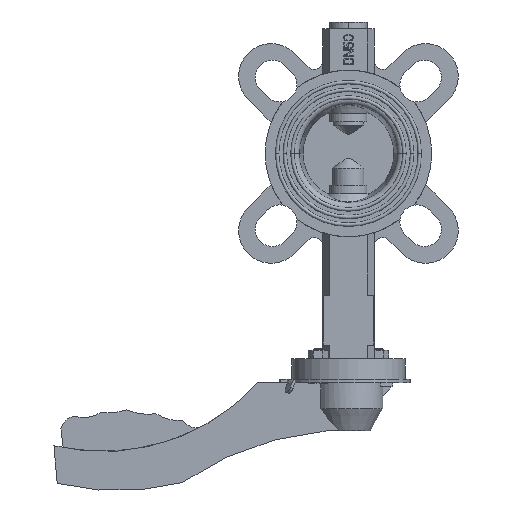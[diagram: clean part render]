
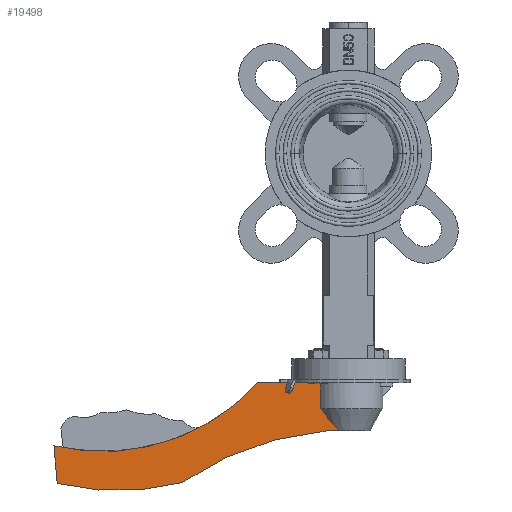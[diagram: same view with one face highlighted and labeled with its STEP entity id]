
A CAD part, front view. The second image highlights one B-rep face of the part: STEP entity #19498.
In plain terms, the highlighted planar face has unit normal (0, -1, 0) as drawn and (0, 0, 1) by its records, which use the part's own axes.
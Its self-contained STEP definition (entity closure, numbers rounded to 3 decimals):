
#18658=DIRECTION('',(1.,0.,0.));
#18659=VECTOR('',#18658,37.);
#18660=CARTESIAN_POINT('',(16.,0.,12.));
#18661=LINE('',#18660,#18659);
#18726=DIRECTION('',(0.,1.,0.));
#18727=VECTOR('',#18726,15.);
#18728=CARTESIAN_POINT('',(16.,0.,12.));
#18729=LINE('',#18728,#18727);
#18881=DIRECTION('',(-1.,0.,0.));
#18882=VECTOR('',#18881,8.);
#18883=CARTESIAN_POINT('',(13.,28.,12.));
#18884=LINE('',#18883,#18882);
#18885=CARTESIAN_POINT('',(-2.144,202.343,12.));
#18886=DIRECTION('',(0.,0.,-1.));
#18887=DIRECTION('',(0.567,-0.824,0.));
#18888=AXIS2_PLACEMENT_3D('',#18885,#18886,#18887);
#18890=CARTESIAN_POINT('',(133.983,-86.2,12.));
#18891=DIRECTION('',(0.,0.,1.));
#18892=DIRECTION('',(0.238,0.971,0.));
#18893=AXIS2_PLACEMENT_3D('',#18890,#18891,#18892);
#18895=DIRECTION('',(-0.087,0.996,0.));
#18896=VECTOR('',#18895,22.);
#18897=CARTESIAN_POINT('',(171.371,36.6,12.));
#18898=LINE('',#18897,#18896);
#18899=CARTESIAN_POINT('',(142.889,-81.,12.));
#18900=DIRECTION('',(0.,0.,-1.));
#18901=DIRECTION('',(-0.743,0.669,0.));
#18902=AXIS2_PLACEMENT_3D('',#18899,#18900,#18901);
#18924=CARTESIAN_POINT('',(5.,28.,12.));
#18925=CARTESIAN_POINT('',(5.552,27.605,12.));
#18926=CARTESIAN_POINT('',(6.667,26.698,12.));
#18927=CARTESIAN_POINT('',(8.382,25.002,12.));
#18928=CARTESIAN_POINT('',(10.153,22.988,12.));
#18929=CARTESIAN_POINT('',(12.,20.659,12.));
#18930=CARTESIAN_POINT('',(13.936,18.017,12.));
#18931=CARTESIAN_POINT('',(15.3,16.04,12.));
#18932=CARTESIAN_POINT('',(16.,15.,12.));
#19060=CARTESIAN_POINT('',(53.,0.,12.));
#19061=CARTESIAN_POINT('',(171.371,36.6,12.));
#19062=VERTEX_POINT('',#19060);
#19063=VERTEX_POINT('',#19061);
#19064=CARTESIAN_POINT('',(169.454,58.516,12.));
#19065=VERTEX_POINT('',#19064);
#19066=CARTESIAN_POINT('',(97.,58.137,12.));
#19067=VERTEX_POINT('',#19066);
#19068=CARTESIAN_POINT('',(13.,28.,12.));
#19069=VERTEX_POINT('',#19068);
#19074=CARTESIAN_POINT('',(16.,0.,12.));
#19075=CARTESIAN_POINT('',(16.,15.,12.));
#19076=VERTEX_POINT('',#19074);
#19077=VERTEX_POINT('',#19075);
#19078=VERTEX_POINT('',#18924);
#19478=CARTESIAN_POINT('',(0.,0.,12.));
#19479=DIRECTION('',(0.,0.,1.));
#19480=DIRECTION('',(1.,0.,0.));
#19481=AXIS2_PLACEMENT_3D('',#19478,#19479,#19480);
#19482=PLANE('',#19481);
#19483=ORIENTED_EDGE('',*,*,#19299,.T.);
#19485=ORIENTED_EDGE('',*,*,#19484,.F.);
#19487=ORIENTED_EDGE('',*,*,#19486,.F.);
#19489=ORIENTED_EDGE('',*,*,#19488,.F.);
#19491=ORIENTED_EDGE('',*,*,#19490,.F.);
#19493=ORIENTED_EDGE('',*,*,#19492,.F.);
#19494=ORIENTED_EDGE('',*,*,#19461,.F.);
#19495=ORIENTED_EDGE('',*,*,#19177,.F.);
#19496=EDGE_LOOP('',(#19483,#19485,#19487,#19489,#19491,#19493,#19494,#19495));
#19497=FACE_OUTER_BOUND('',#19496,.F.);
#19498=ADVANCED_FACE('',(#19497),#19482,.T.);
#18889=CIRCLE('',#18888,175.);
#18894=CIRCLE('',#18893,149.);
#18903=CIRCLE('',#18902,121.);
#18933=B_SPLINE_CURVE_WITH_KNOTS('',3,(#18924,#18925,#18926,#18927,#18928,
#18929,#18930,#18931,#18932),.UNSPECIFIED.,.F.,.F.,(4,1,1,1,1,1,4),(0.,
0.167,0.333,0.5,0.667,0.833,
1.),.UNSPECIFIED.);
#19177=EDGE_CURVE('',#19076,#19062,#18661,.T.);
#19299=EDGE_CURVE('',#19076,#19077,#18729,.T.);
#19461=EDGE_CURVE('',#19062,#19063,#18903,.T.);
#19484=EDGE_CURVE('',#19078,#19077,#18933,.T.);
#19486=EDGE_CURVE('',#19069,#19078,#18884,.T.);
#19488=EDGE_CURVE('',#19067,#19069,#18889,.T.);
#19490=EDGE_CURVE('',#19065,#19067,#18894,.T.);
#19492=EDGE_CURVE('',#19063,#19065,#18898,.T.);
